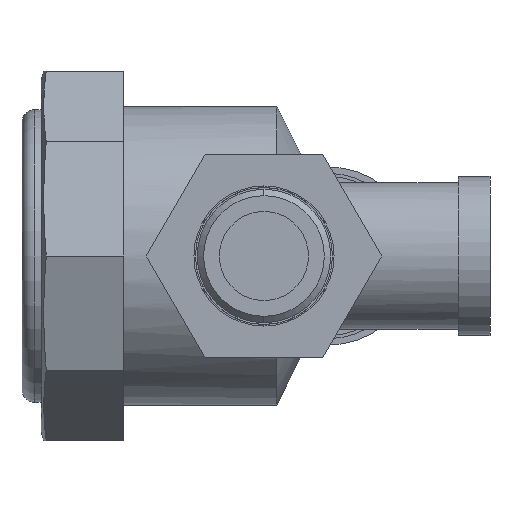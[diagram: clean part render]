
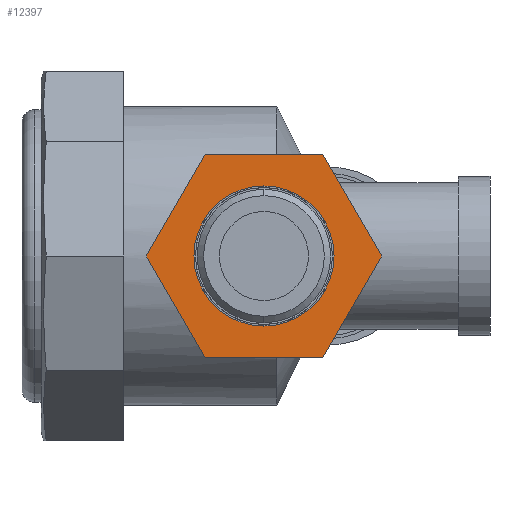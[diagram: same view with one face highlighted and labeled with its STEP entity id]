
A CAD part, left-side view. The second image highlights one B-rep face of the part: STEP entity #12397.
In plain terms, the highlighted planar face has unit normal (-1, 0, 0).
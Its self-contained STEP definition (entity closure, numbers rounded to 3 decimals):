
#9943 = CARTESIAN_POINT ( 'NONE',  ( -55.586, 2.816, 9.526 ) ) ;
#9944 = DIRECTION ( 'NONE',  ( 0., -0.5, -0.866 ) ) ;
#9945 = DIRECTION ( 'NONE',  ( -1., 0., 0. ) ) ;
#9946 = CARTESIAN_POINT ( 'NONE',  ( -55.586, -2.684, 0. ) ) ;
#9947 = AXIS2_PLACEMENT_3D ( 'NONE', #9946, #9945, #9944 ) ;
#9948 = CIRCLE ( 'NONE', #9947, 11. ) ;
#10256 = VECTOR ( 'NONE', #10391, 1000. ) ;
#10257 = CARTESIAN_POINT ( 'NONE',  ( -55.586, -21.16, 0. ) ) ;
#10258 = LINE ( 'NONE', #10257, #10256 ) ;
#10263 = CARTESIAN_POINT ( 'NONE',  ( -55.586, -8.184, -9.526 ) ) ;
#10265 = DIRECTION ( 'NONE',  ( 0., -0.5, -0.866 ) ) ;
#10266 = DIRECTION ( 'NONE',  ( -1., 0., 0. ) ) ;
#10267 = CARTESIAN_POINT ( 'NONE',  ( -55.586, 6.553, 16. ) ) ;
#10268 = AXIS2_PLACEMENT_3D ( 'NONE', #10267, #10266, #10265 ) ;
#10269 = PLANE ( 'NONE',  #10268 ) ;
#10295 = DIRECTION ( 'NONE',  ( 0., 1., 0. ) ) ;
#10296 = VECTOR ( 'NONE', #10295, 1000. ) ;
#10297 = CARTESIAN_POINT ( 'NONE',  ( -55.586, -11.922, 16. ) ) ;
#10298 = LINE ( 'NONE', #10297, #10296 ) ;
#10299 = CARTESIAN_POINT ( 'NONE',  ( -55.586, 15.791, 0. ) ) ;
#10306 = CARTESIAN_POINT ( 'NONE',  ( -55.586, -11.922, 16. ) ) ;
#10311 = DIRECTION ( 'NONE',  ( 0., 0.5, -0.866 ) ) ;
#10312 = VECTOR ( 'NONE', #10311, 1000. ) ;
#10313 = CARTESIAN_POINT ( 'NONE',  ( -55.586, 6.553, 16. ) ) ;
#10314 = LINE ( 'NONE', #10313, #10312 ) ;
#10326 = LINE ( 'NONE', #10396, #10376 ) ;
#10333 = CARTESIAN_POINT ( 'NONE',  ( -55.586, 6.553, 16. ) ) ;
#10354 = CARTESIAN_POINT ( 'NONE',  ( -55.586, -11.922, -16. ) ) ;
#10355 = DIRECTION ( 'NONE',  ( 0., -0.5, -0.866 ) ) ;
#10356 = DIRECTION ( 'NONE',  ( -1., 0., 0. ) ) ;
#10357 = CARTESIAN_POINT ( 'NONE',  ( -55.586, -2.684, 0. ) ) ;
#10358 = AXIS2_PLACEMENT_3D ( 'NONE', #10357, #10356, #10355 ) ;
#10359 = CIRCLE ( 'NONE', #10358, 11. ) ;
#10366 = DIRECTION ( 'NONE',  ( 0., -0.5, 0.866 ) ) ;
#10367 = VECTOR ( 'NONE', #10366, 1000. ) ;
#10368 = CARTESIAN_POINT ( 'NONE',  ( -55.586, -11.922, -16. ) ) ;
#10369 = LINE ( 'NONE', #10368, #10367 ) ;
#10372 = CARTESIAN_POINT ( 'NONE',  ( -55.586, 6.553, -16. ) ) ;
#10373 = DIRECTION ( 'NONE',  ( 0., -0.5, -0.866 ) ) ;
#10374 = VECTOR ( 'NONE', #10373, 1000. ) ;
#10375 = DIRECTION ( 'NONE',  ( 0., -1., 0. ) ) ;
#10376 = VECTOR ( 'NONE', #10375, 1000. ) ;
#10378 = CARTESIAN_POINT ( 'NONE',  ( -55.586, -21.16, 0. ) ) ;
#10379 = FACE_BOUND ( 'NONE', #12448, .T. ) ;
#10380 = FACE_OUTER_BOUND ( 'NONE', #12451, .T. ) ;
#10391 = DIRECTION ( 'NONE',  ( 0., 0.5, 0.866 ) ) ;
#10396 = CARTESIAN_POINT ( 'NONE',  ( -55.586, 6.553, -16. ) ) ;
#10397 = CARTESIAN_POINT ( 'NONE',  ( -55.586, 15.791, 0. ) ) ;
#10398 = LINE ( 'NONE', #10397, #10374 ) ;
#12214 = EDGE_CURVE ( 'NONE', #12215, #12405, #9948, .T. ) ;
#12215 = VERTEX_POINT ( 'NONE', #9943 ) ;
#12346 = EDGE_CURVE ( 'NONE', #12449, #12347, #10398, .T. ) ;
#12347 = VERTEX_POINT ( 'NONE', #10372 ) ;
#12368 = ORIENTED_EDGE ( 'NONE', *, *, #12369, .T. ) ;
#12369 = EDGE_CURVE ( 'NONE', #12347, #12469, #10326, .T. ) ;
#12370 = EDGE_CURVE ( 'NONE', #12469, #12371, #10369, .T. ) ;
#12371 = VERTEX_POINT ( 'NONE', #10378 ) ;
#12393 = EDGE_CURVE ( 'NONE', #12371, #12427, #10258, .T. ) ;
#12397 = ADVANCED_FACE ( 'NONE', ( #10380, #10379 ), #10269, .T. ) ;
#12405 = VERTEX_POINT ( 'NONE', #10263 ) ;
#12421 = ORIENTED_EDGE ( 'NONE', *, *, #12422, .T. ) ;
#12422 = EDGE_CURVE ( 'NONE', #12428, #12449, #10314, .T. ) ;
#12427 = VERTEX_POINT ( 'NONE', #10306 ) ;
#12428 = VERTEX_POINT ( 'NONE', #10333 ) ;
#12448 = EDGE_LOOP ( 'NONE', ( #12502, #12484 ) ) ;
#12449 = VERTEX_POINT ( 'NONE', #10299 ) ;
#12450 = ORIENTED_EDGE ( 'NONE', *, *, #12346, .T. ) ;
#12451 = EDGE_LOOP ( 'NONE', ( #12452, #12421, #12450, #12368, #12470, #12492 ) ) ;
#12452 = ORIENTED_EDGE ( 'NONE', *, *, #12453, .T. ) ;
#12453 = EDGE_CURVE ( 'NONE', #12427, #12428, #10298, .T. ) ;
#12467 = EDGE_CURVE ( 'NONE', #12405, #12215, #10359, .T. ) ;
#12469 = VERTEX_POINT ( 'NONE', #10354 ) ;
#12470 = ORIENTED_EDGE ( 'NONE', *, *, #12370, .T. ) ;
#12484 = ORIENTED_EDGE ( 'NONE', *, *, #12467, .F. ) ;
#12492 = ORIENTED_EDGE ( 'NONE', *, *, #12393, .T. ) ;
#12502 = ORIENTED_EDGE ( 'NONE', *, *, #12214, .F. ) ;
